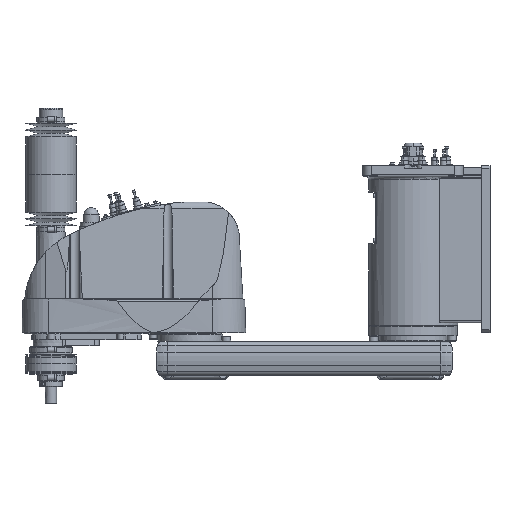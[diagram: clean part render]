
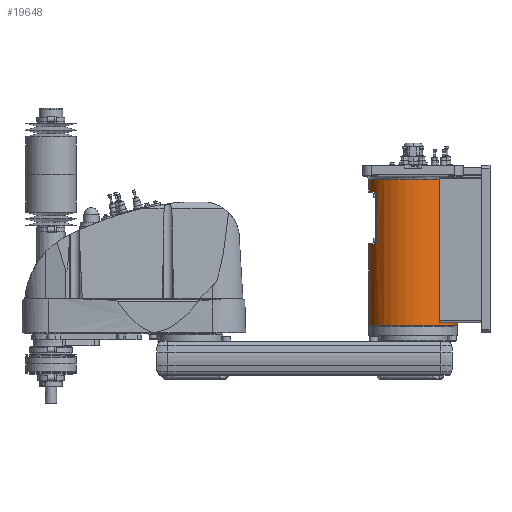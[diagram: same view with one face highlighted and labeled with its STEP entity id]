
A CAD part, top view. The second image highlights one B-rep face of the part: STEP entity #19648.
In plain terms, the highlighted cylindrical face has radius 80 mm (diameter 160 mm), a partial arc.
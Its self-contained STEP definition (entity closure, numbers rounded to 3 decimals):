
#10404 = EDGE_CURVE( '', #19774, #12012, #28959, .T. );
#10956 = VERTEX_POINT( '', #29568 );
#11186 = EDGE_CURVE( '', #24906, #15154, #29836, .T. );
#11468 = EDGE_CURVE( '', #24918, #22714, #30153, .T. );
#11516 = VERTEX_POINT( '', #30204 );
#11990 = EDGE_CURVE( '', #24918, #26966, #30724, .T. );
#12012 = VERTEX_POINT( '', #30748 );
#12602 = EDGE_CURVE( '', #12012, #10956, #31411, .T. );
#13218 = EDGE_CURVE( '', #22714, #27550, #32102, .T. );
#14888 = EDGE_CURVE( '', #15154, #19030, #33954, .T. );
#15154 = VERTEX_POINT( '', #34251 );
#17838 = EDGE_CURVE( '', #19030, #19774, #37290, .T. );
#18684 = EDGE_CURVE( '', #26966, #10956, #38233, .T. );
#19030 = VERTEX_POINT( '', #38625 );
#19072 = EDGE_CURVE( '', #27550, #11516, #38671, .T. );
#19464 = EDGE_CURVE( '', #11516, #26050, #39100, .T. );
#19648 = ADVANCED_FACE( '', ( #39303 ), #39304, .T. );
#19758 = EDGE_CURVE( '', #26050, #24906, #39434, .T. );
#19774 = VERTEX_POINT( '', #39451 );
#22714 = VERTEX_POINT( '', #42735 );
#24906 = VERTEX_POINT( '', #45176 );
#24918 = VERTEX_POINT( '', #45191 );
#26050 = VERTEX_POINT( '', #46452 );
#26966 = VERTEX_POINT( '', #47451 );
#27550 = VERTEX_POINT( '', #48099 );
#28959 = B_SPLINE_CURVE_WITH_KNOTS( '', 3, ( #50169, #50170, #50171, #50172, #50173, #50174, #50175, #50176, #50177, #50178, #50179, #50180, #50181, #50182, #50183, #50184 ), .UNSPECIFIED., .F., .F., ( 4, 2, 2, 2, 2, 2, 2, 4 ), ( -6.06, -5.11, -4.16, -2.26, -1.695, -1.13, -0.565, 0. ), .UNSPECIFIED. );
#29568 = CARTESIAN_POINT( '', ( 46.637, 291.5, 65. ) );
#29836 = CIRCLE( '', #51579, 80. );
#30153 = LINE( '', #52037, #52038 );
#30204 = CARTESIAN_POINT( '', ( -66., 176., 45.211 ) );
#30724 = CIRCLE( '', #52840, 80. );
#30748 = CARTESIAN_POINT( '', ( 46.637, 37.5, 65. ) );
#31411 = LINE( '', #53932, #53933 );
#32102 = CIRCLE( '', #54942, 80. );
#33954 = LINE( '', #57848, #57849 );
#34251 = CARTESIAN_POINT( '', ( 80., 30., 0. ) );
#37290 = CIRCLE( '', #62855, 80. );
#38233 = CIRCLE( '', #64341, 80. );
#38625 = CARTESIAN_POINT( '', ( 80., 34.5, 0. ) );
#38671 = LINE( '', #65040, #65041 );
#39100 = CIRCLE( '', #65757, 80. );
#39303 = FACE_OUTER_BOUND( '', #66141, .T. );
#39304 = CYLINDRICAL_SURFACE( '', #66142, 80. );
#39434 = LINE( '', #66336, #66337 );
#39451 = CARTESIAN_POINT( '', ( 50.557, 34.5, 62. ) );
#42735 = CARTESIAN_POINT( '', ( -80., 269., 0. ) );
#45176 = CARTESIAN_POINT( '', ( -80., 30., 0. ) );
#45191 = CARTESIAN_POINT( '', ( -80., 291.5, 0. ) );
#46452 = CARTESIAN_POINT( '', ( -80., 176., 0. ) );
#47451 = CARTESIAN_POINT( '', ( 0., 291.5, 80. ) );
#48099 = CARTESIAN_POINT( '', ( -66., 269., 45.211 ) );
#50169 = CARTESIAN_POINT( '', ( 50.557, 34.5, 62. ) );
#50170 = CARTESIAN_POINT( '', ( 50.312, 34.5, 62.2 ) );
#50171 = CARTESIAN_POINT( '', ( 50.054, 34.52, 62.407 ) );
#50172 = CARTESIAN_POINT( '', ( 49.533, 34.607, 62.822 ) );
#50173 = CARTESIAN_POINT( '', ( 49.269, 34.674, 63.029 ) );
#50174 = CARTESIAN_POINT( '', ( 48.491, 34.945, 63.632 ) );
#50175 = CARTESIAN_POINT( '', ( 47.991, 35.221, 64.009 ) );
#50176 = CARTESIAN_POINT( '', ( 47.455, 35.701, 64.405 ) );
#50177 = CARTESIAN_POINT( '', ( 47.333, 35.827, 64.495 ) );
#50178 = CARTESIAN_POINT( '', ( 47.106, 36.105, 64.661 ) );
#50179 = CARTESIAN_POINT( '', ( 47.002, 36.258, 64.736 ) );
#50180 = CARTESIAN_POINT( '', ( 46.828, 36.585, 64.863 ) );
#50181 = CARTESIAN_POINT( '', ( 46.758, 36.761, 64.913 ) );
#50182 = CARTESIAN_POINT( '', ( 46.662, 37.124, 64.982 ) );
#50183 = CARTESIAN_POINT( '', ( 46.637, 37.312, 65. ) );
#50184 = CARTESIAN_POINT( '', ( 46.637, 37.5, 65. ) );
#51579 = AXIS2_PLACEMENT_3D( '', #82519, #82520, #82521 );
#52037 = CARTESIAN_POINT( '', ( -80., 160.75, 0. ) );
#52038 = VECTOR( '', #82885, 1. );
#52840 = AXIS2_PLACEMENT_3D( '', #83506, #83507, #83508 );
#53932 = CARTESIAN_POINT( '', ( 46.637, 164.5, 65. ) );
#53933 = VECTOR( '', #84304, 1. );
#54942 = AXIS2_PLACEMENT_3D( '', #85115, #85116, #85117 );
#57848 = CARTESIAN_POINT( '', ( 80., 160.75, 0. ) );
#57849 = VECTOR( '', #87234, 1. );
#62855 = AXIS2_PLACEMENT_3D( '', #91258, #91259, #91260 );
#64341 = AXIS2_PLACEMENT_3D( '', #92330, #92331, #92332 );
#65040 = CARTESIAN_POINT( '', ( -66., 222.5, 45.211 ) );
#65041 = VECTOR( '', #92843, 1. );
#65757 = AXIS2_PLACEMENT_3D( '', #93340, #93341, #93342 );
#66141 = EDGE_LOOP( '', ( #93543, #93544, #93545, #93546, #93547, #93548, #93549, #93550, #93551, #93552, #93553, #93554 ) );
#66142 = AXIS2_PLACEMENT_3D( '', #93555, #93556, #93557 );
#66336 = CARTESIAN_POINT( '', ( -80., 160.75, 0. ) );
#66337 = VECTOR( '', #93741, 1. );
#82519 = CARTESIAN_POINT( '', ( 0., 30., 0. ) );
#82520 = DIRECTION( '', ( 0., 1., 0. ) );
#82521 = DIRECTION( '', ( 1., 0., 0. ) );
#82885 = DIRECTION( '', ( 0., -1., 0. ) );
#83506 = CARTESIAN_POINT( '', ( 0., 291.5, 0. ) );
#83507 = DIRECTION( '', ( 0., 1., 0. ) );
#83508 = DIRECTION( '', ( 1., 0., 0. ) );
#84304 = DIRECTION( '', ( 0., 1., 0. ) );
#85115 = CARTESIAN_POINT( '', ( 0., 269., 0. ) );
#85116 = DIRECTION( '', ( 0., 1., 0. ) );
#85117 = DIRECTION( '', ( 1., 0., 0. ) );
#87234 = DIRECTION( '', ( 0., 1., 0. ) );
#91258 = CARTESIAN_POINT( '', ( 0., 34.5, 0. ) );
#91259 = DIRECTION( '', ( 0., -1., 0. ) );
#91260 = DIRECTION( '', ( 1., 0., 0. ) );
#92330 = CARTESIAN_POINT( '', ( 0., 291.5, 0. ) );
#92331 = DIRECTION( '', ( 0., 1., 0. ) );
#92332 = DIRECTION( '', ( 1., 0., 0. ) );
#92843 = DIRECTION( '', ( 0., -1., 0. ) );
#93340 = CARTESIAN_POINT( '', ( 0., 176., 0. ) );
#93341 = DIRECTION( '', ( 0., -1., 0. ) );
#93342 = DIRECTION( '', ( 1., 0., 0. ) );
#93543 = ORIENTED_EDGE( '', *, *, #14888, .T. );
#93544 = ORIENTED_EDGE( '', *, *, #17838, .T. );
#93545 = ORIENTED_EDGE( '', *, *, #10404, .T. );
#93546 = ORIENTED_EDGE( '', *, *, #12602, .T. );
#93547 = ORIENTED_EDGE( '', *, *, #18684, .F. );
#93548 = ORIENTED_EDGE( '', *, *, #11990, .F. );
#93549 = ORIENTED_EDGE( '', *, *, #11468, .T. );
#93550 = ORIENTED_EDGE( '', *, *, #13218, .T. );
#93551 = ORIENTED_EDGE( '', *, *, #19072, .T. );
#93552 = ORIENTED_EDGE( '', *, *, #19464, .T. );
#93553 = ORIENTED_EDGE( '', *, *, #19758, .T. );
#93554 = ORIENTED_EDGE( '', *, *, #11186, .T. );
#93555 = CARTESIAN_POINT( '', ( 0., 160.75, 0. ) );
#93556 = DIRECTION( '', ( 0., -1., 0. ) );
#93557 = DIRECTION( '', ( 1., 0., 0. ) );
#93741 = DIRECTION( '', ( 0., -1., 0. ) );
